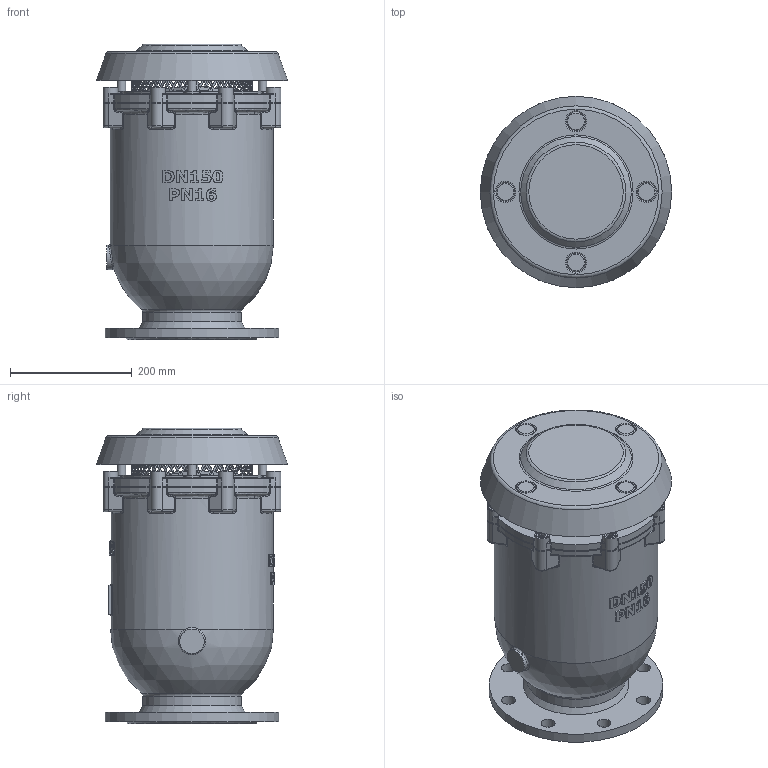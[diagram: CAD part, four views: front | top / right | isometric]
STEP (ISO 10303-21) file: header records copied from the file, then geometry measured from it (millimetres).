
FILE_DESCRIPTION(('STEP AP242'), '1');
FILE_NAME('Âîçäóøíûé êëàïàí DUOJET KX', '', ('UNSPECIFIED'), ('UNSPECIFIED'), 'C3D Converter', 'C3D Toolkit', '');
FILE_SCHEMA(('AP242_MANAGED_MODEL_BASED_3D_ENGINEERING_MIM_LF { 1 0 10303 442 1 1 4 }'));
Length unit declared in the file: millimetre
Assembly tree (33 placements, depth 2):
  (unnamed)
    (unnamed)
    (unnamed)
    (unnamed)
    (unnamed)
    (unnamed)
    (unnamed)
    (unnamed)  x4
    (unnamed)  x4
    (unnamed)
    (unnamed)
    (unnamed)
    (unnamed)
    (unnamed)  x7
    (unnamed)  x4
    (unnamed)  x4
Bounding box: 314 x 314 x 485 mm (x, y, z)
Volume: 5335004.6 mm3; surface area: 2249002.8 mm2
Topology: 47 solids, 48 shells, 1748 faces, 4572 edges, 2971 vertices
Faces by surface type: plane 588, bspline 460, cylinder 418, extrusion 138, torus 73, cone 58, sphere 13
Full cylindrical faces by diameter (mm): 6 x3, 8 x12, 8.8 x4, 9 x10, 10 x4, 12 x32, 14 x4, 18 x8, 19.2 x8, 20 x4, 23 x8, 24 x8, 27.411 x1, 37.5 x2, 40 x1, 43.5 x1, 150 x2, 162 x1, 196 x2, 198 x1, 205 x2, 211 x1, 228 x1, 232 x2, 244 x2, 256 x1, 266 x2, 268 x3, 285 x1
Entity records: 135806 total; most frequent: CARTESIAN_POINT 97694, ORIENTED_EDGE 7912, DIRECTION 5152, EDGE_CURVE 3956, VERTEX_POINT 2662, EDGE_LOOP 1990, B_SPLINE_CURVE_WITH_KNOTS 1962, AXIS2_PLACEMENT_3D 1935
